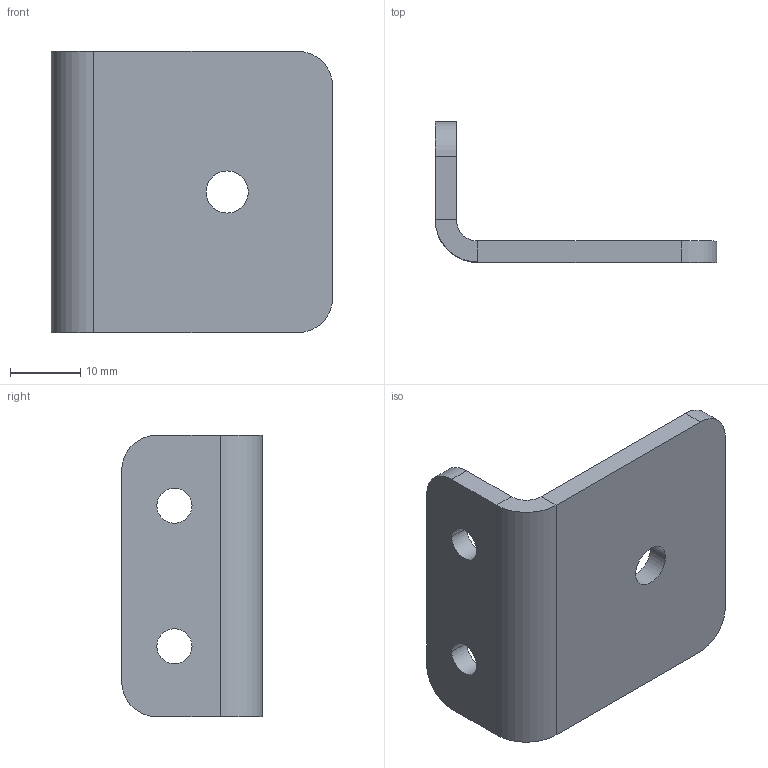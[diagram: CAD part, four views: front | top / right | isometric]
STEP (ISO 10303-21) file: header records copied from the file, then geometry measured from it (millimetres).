
FILE_DESCRIPTION((''),'2;1');
FILE_NAME('0000187196','2024-01-01T18:38:14',('Wyndorps'),(''),'CREO PARAMETRIC BY PTC INC, 2022484','CREO PARAMETRIC BY PTC INC, 2022484','');
FILE_SCHEMA(('CONFIG_CONTROL_DESIGN'));
Length unit declared in the file: millimetre
Products named in the file (1): 0000187196
Bounding box: 40 x 20 x 40 mm (x, y, z)
Volume: 6341.2 mm3; surface area: 4922.9 mm2
Topology: 1 solids, 1 shells, 24 faces, 58 edges, 36 vertices
Faces by surface type: plane 12, cylinder 12
Entity records: 752 total; most frequent: DIRECTION 130, CARTESIAN_POINT 118, ORIENTED_EDGE 116, EDGE_CURVE 58, AXIS2_PLACEMENT_3D 48, VERTEX_POINT 36, VECTOR 34, LINE 34
